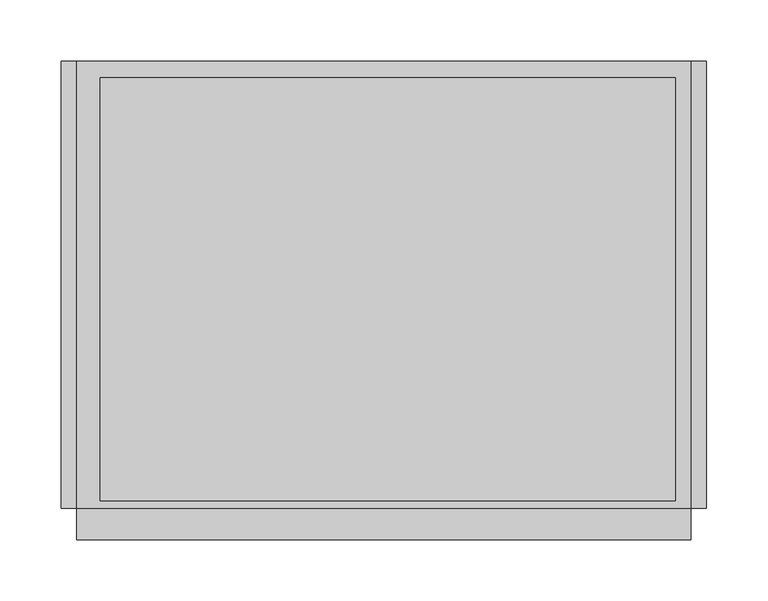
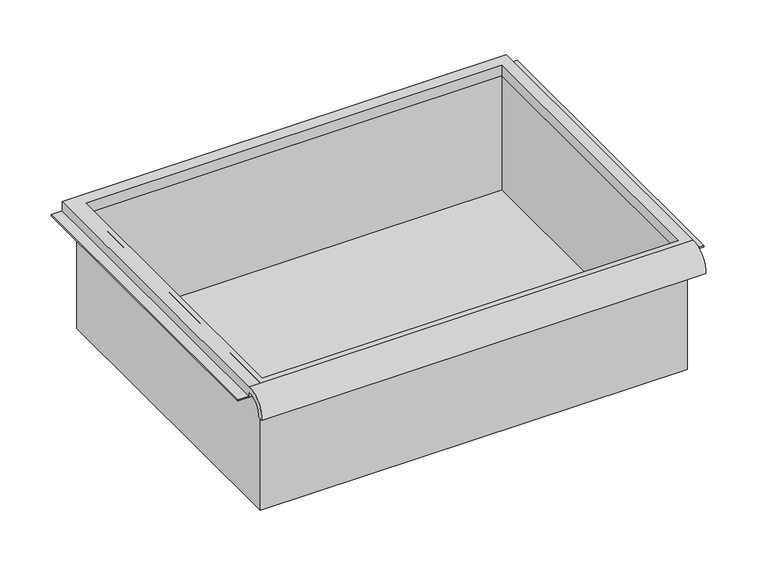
"""IFC4 building model written with IfcOpenShell, lengths in millimetres: furniture geometry."""

from ifc_helpers import new_model, si_unit, frame, origin, place, context, project, spatial, polyline, circle_curve, faceted_brep, source, transform, mapped, element, save
from ifc_brep_helpers import plane_surface, cylinder_surface, revolved_surface, advanced_brep


def furniture_3da6129d(model_context):
    return source(origin(), model_context, "Body", "SolidModel", [
        advanced_brep(
        [(263.7474999, -195.297482, 357.9824118), (263.7474999, -188.9125, 357.9824118), (263.7474999, -169.8625, 376.243885), (263.7474999, -169.8625, 369.8938846), (263.7474999, 195.2625, 369.8938846), (263.7474999, 195.2625, 382.593885), (263.7474999, -169.8625, 382.593885), (-237.9025001, -195.297482, 357.9824118), (-237.9025001, -169.8625, 382.593885), (-237.9025001, 195.2625, 382.593885), (-237.9025001, 195.2625, 369.8938846), (-237.9025001, -169.8625, 369.8938846), (-237.9025001, -169.8625, 376.243885), (-237.9025001, -188.9125, 357.9824118), (251.0474878, 181.9275, 369.8938846), (-218.8095642, 181.9275, 369.8938846), (-218.8095642, -163.5125, 369.8938846), (251.0474878, -163.5125, 369.8938846), (-218.8095642, 181.9275, 382.593885), (251.0474878, 181.9275, 382.593885), (251.0474878, -163.5125, 382.593885), (-218.8095642, -163.5125, 382.593885)],
        [
            (0, 1),
            (1, 2, circle_curve(frame((263.7474999, -172.3404634, 359.7618222), z_axis=(-1.0, 0.0, 0.0), x_axis=(0.0, 1.0, 0.0)), 16.6672942)),
            (2, 3),
            (3, 4),
            (4, 5),
            (5, 6),
            (6, 0, circle_curve(frame((263.7474999, -172.4601678, 359.8297122), z_axis=(1.0, 0.0, 0.0), x_axis=(0.0, 1.0, 0.0)), 22.9119061)),
            (7, 8, circle_curve(frame((-237.9025001, -172.4601678, 359.8297122), z_axis=(-1.0, 0.0, 0.0), x_axis=(0.0, 1.0, 0.0)), 22.9119061)),
            (8, 9),
            (9, 10),
            (10, 11),
            (11, 12),
            (12, 13, circle_curve(frame((-237.9025001, -172.3404634, 359.7618222), z_axis=(1.0, 0.0, 0.0), x_axis=(0.0, 1.0, 0.0)), 16.6672942)),
            (13, 7),
            (0, 7),
            (13, 1),
            (12, 2),
            (11, 3),
            (10, 4),
            (14, 15),
            (15, 16),
            (16, 17),
            (17, 14),
            (9, 5),
            (8, 6),
            (18, 19),
            (19, 20),
            (20, 21),
            (21, 18),
            (14, 19),
            (18, 15),
            (21, 16),
            (20, 17),
        ],
        [
            plane_surface(frame((263.7474999, -195.297482, 357.9824118), z_axis=(1.0, 0.0, 0.0), x_axis=(0.0, 1.0, 0.0))),
            plane_surface(frame((-237.9025001, -195.297482, 357.9824118), z_axis=(-1.0, 0.0, 0.0), x_axis=(0.0, -1.0, 0.0))),
            plane_surface(frame((263.7474999, -195.297482, 357.9824118), z_axis=(0.0, 0.0, -1.0), x_axis=(-1.0, 0.0, 0.0))),
            revolved_surface(polyline([(-237.9025001, -155.67316920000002, 359.7618222), (263.7474999, -155.67316920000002, 359.7618222)]), (-237.9025001, -172.3404634, 359.7618222), (-1.0, 0.0, 0.0)),
            plane_surface(frame((263.7474999, -169.8625, 376.243885), z_axis=(0.0, -1.0, 0.0), x_axis=(-1.0, 0.0, 0.0))),
            plane_surface(frame((263.7474999, -169.8625, 369.8938846), z_axis=(0.0, 0.0, -1.0), x_axis=(-1.0, 0.0, 0.0))),
            plane_surface(frame((263.7474999, 195.2625, 369.8938846), z_axis=(0.0, 1.0, 0.0), x_axis=(-1.0, 0.0, 0.0))),
            plane_surface(frame((263.7474999, 195.2625, 382.593885), z_axis=(0.0, 0.0, 1.0), x_axis=(-1.0, 0.0, 0.0))),
            cylinder_surface(frame((-237.9025001, -172.4601678, 359.8297122), z_axis=(1.0, 0.0, 0.0), x_axis=(0.0, 1.0, 0.0)), 22.9119061),
            plane_surface(frame((251.0474878, 181.9275, 382.593885), z_axis=(0.0, -1.0, 0.0), x_axis=(0.0, 0.0, -1.0))),
            plane_surface(frame((-218.8095642, 181.9275, 382.593885), z_axis=(1.0, 0.0, 0.0), x_axis=(0.0, 0.0, -1.0))),
            plane_surface(frame((-218.8095642, -163.5125, 382.593885), z_axis=(0.0, 1.0, 0.0), x_axis=(0.0, 0.0, -1.0))),
            plane_surface(frame((251.0474878, -163.5125, 382.593885), z_axis=(-1.0, 0.0, 0.0), x_axis=(0.0, 0.0, -1.0))),
        ],
        [
            (0, [[1, 2, 3, 4, 5, 6, 7]]),
            (1, [[8, 9, 10, 11, 12, 13, 14]]),
            (2, [[-1, 15, -14, 16]]),
            (3, [[-2, -16, -13, 17]]),
            (4, [[-3, -17, -12, 18]]),
            (5, [[-4, -18, -11, 19], [20, 21, 22, 23]]),
            (6, [[-5, -19, -10, 24]]),
            (7, [[-6, -24, -9, 25], [26, 27, 28, 29]]),
            (8, [[-7, -25, -8, -15]]),
            (9, [[30, -26, 31, -20]]),
            (10, [[-31, -29, 32, -21]]),
            (11, [[-32, -28, 33, -22]]),
            (12, [[-30, -23, -33, -27]]),
        ],
    ),
        faceted_brep([(-225.2025001, -169.8625, 230.193885), (257.3974878, -169.8625, 230.193885), (257.3974878, -169.8625, 382.593885), (-225.2025001, -169.8625, 382.593885), (-225.2025001, 188.9125, 230.193885), (-225.2025001, 188.9125, 382.593885), (257.3974878, 188.9125, 382.593885), (257.3974878, 188.9125, 230.193885), (-218.8095642, 181.9275, 382.593885), (251.0474878, 181.9275, 382.593885), (251.0474878, -163.5125, 382.593885), (-218.8095642, -163.5125, 382.593885), (251.0474878, 181.9275, 233.368885), (-218.8095642, 181.9275, 233.368885), (-218.8095642, -163.5125, 233.368885), (251.0474878, -163.5125, 233.368885)], [[[0, 1, 2, 3]], [[4, 5, 6, 7]], [[1, 0, 4, 7]], [[2, 1, 7, 6]], [[3, 2, 6, 5], [8, 9, 10, 11]], [[0, 3, 5, 4]], [[12, 13, 14, 15]], [[13, 12, 9, 8]], [[14, 13, 8, 11]], [[15, 14, 11, 10]], [[12, 15, 10, 9]]]),
        faceted_brep([(-250.6025001, 195.2625, 369.8938846), (-250.6025001, 195.2625, 371.4813846), (-231.5525001, 195.2625, 371.4813846), (-231.5525001, 195.2625, 369.8938846), (-250.6025001, -169.8625, 369.8938846), (-231.5525001, -169.8625, 369.8938846), (-231.5525001, -169.8625, 371.4813846), (-250.6025001, -169.8625, 371.4813846)], [[[0, 1, 2, 3]], [[4, 5, 6, 7]], [[1, 0, 4, 7]], [[2, 1, 7, 6]], [[3, 2, 6, 5]], [[0, 3, 5, 4]]]),
        faceted_brep([(276.4474999, 195.2625, 369.8938846), (263.7474999, 195.2625, 369.8938846), (263.7474999, 195.2625, 371.4813846), (276.4474999, 195.2625, 371.4813846), (276.4474999, -169.8625, 369.8938846), (276.4474999, -169.8625, 371.4813846), (263.7474999, -169.8625, 371.4813846), (263.7474999, -169.8625, 369.8938846)], [[[0, 1, 2, 3]], [[4, 5, 6, 7]], [[1, 0, 4, 7]], [[2, 1, 7, 6]], [[3, 2, 6, 5]], [[0, 3, 5, 4]]]),
    ])


if __name__ == "__main__":
    model = new_model("IFC4")
    model_context = context("Model", 3, world=origin())
    ifc_project = project(units=[si_unit("LENGTHUNIT", "METRE", prefix="MILLI")], contexts=[model_context])
    site = spatial("IfcSite", under=ifc_project)
    building = spatial("IfcBuilding", under=site)
    placement = place(None, origin())
    furniture_shape = furniture_3da6129d(model_context)
    element("IfcFurniture", 1, ObjectType="HermanMiller_Carts_CT501_Drawer : 6\"H x 15\"D x 20\"W", at=placement, inside=building, context=model_context, shape_type="MappedRepresentation", body=[
        mapped(furniture_shape, transform((0.0, 0.0, 0.0), x_axis=(1.0, 0.0, 0.0), y_axis=(0.0, 1.0, 0.0), z_axis=(0.0, 0.0, 1.0))),
    ])
    save(model, "model.ifc")
